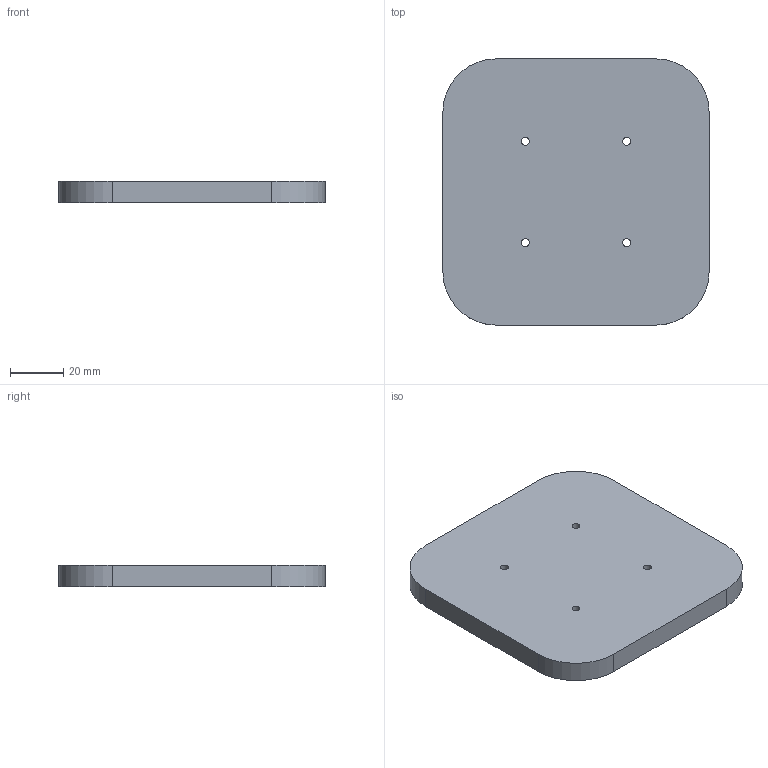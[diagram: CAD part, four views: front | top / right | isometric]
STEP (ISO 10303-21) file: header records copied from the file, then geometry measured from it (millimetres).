
FILE_DESCRIPTION(/* description */ (''),/* implementation_level */ '2;1');
FILE_NAME(/* name */ 'Support_Plate.step',/* time_stamp */ '2026-01-10T17:45:44+05:30',/* author */ (''),/* organization */ (''),/* preprocessor_version */ 'ST-DEVELOPER v20.1',/* originating_system */ 'Autodesk Translation Framework v14.21.0.0',/* authorisation */ '');
FILE_SCHEMA (('AUTOMOTIVE_DESIGN { 1 0 10303 214 3 1 1 }'));
Length unit declared in the file: millimetre
Products named in the file (2): (Unsaved); Support_Plate
Assembly tree (1 placements, depth 2):
  (Unsaved)
    Support_Plate
Bounding box: 100 x 100 x 8 mm (x, y, z)
Volume: 33357.7 mm3; surface area: 24044.9 mm2
Topology: 1 solids, 1 shells, 23 faces, 60 edges, 40 vertices
Faces by surface type: cylinder 12, plane 11
Full cylindrical faces by diameter (mm): 3 x4
Entity records: 794 total; most frequent: DIRECTION 136, CARTESIAN_POINT 126, ORIENTED_EDGE 120, EDGE_CURVE 60, AXIS2_PLACEMENT_3D 50, VERTEX_POINT 40, LINE 36, VECTOR 36
